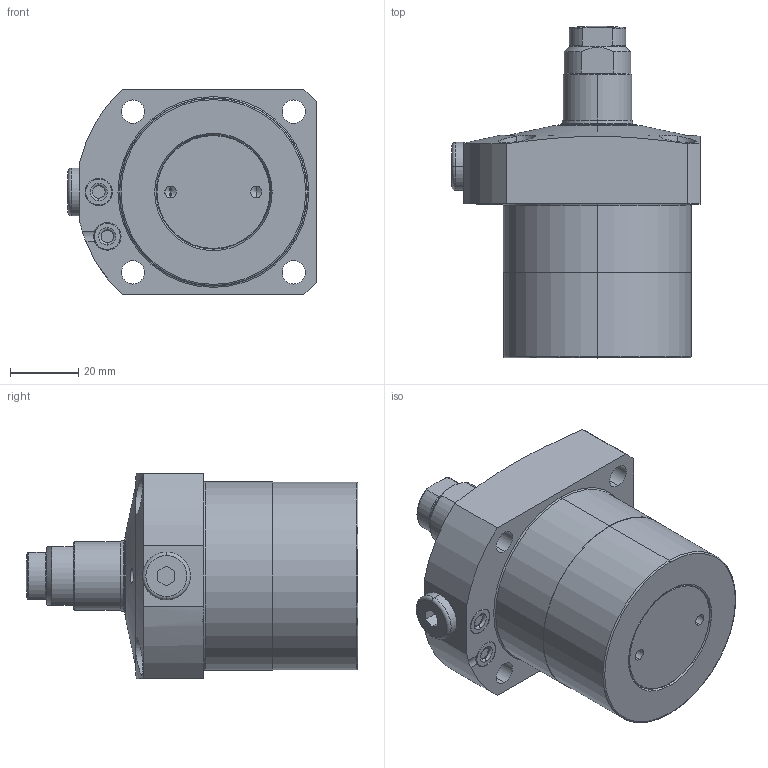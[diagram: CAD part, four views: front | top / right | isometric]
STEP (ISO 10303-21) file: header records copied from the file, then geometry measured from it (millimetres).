
FILE_DESCRIPTION(/* description */ (''),/* implementation_level */ '2;1');
FILE_NAME(/* name */ 'KFSS55.stp',/* time_stamp */ '2026-02-06T09:40:26+08:00',/* author */ (''),/* organization */ (''),/* preprocessor_version */ 'ST-DEVELOPER v16.7',/* originating_system */ 'SIEMENS PLM Software NX 12.0',/* authorisation */ '');
FILE_SCHEMA (('AUTOMOTIVE_DESIGN { 1 0 10303 214 3 1 1 1 }'));
Length unit declared in the file: millimetre
Products named in the file (8): XLC-M12_o-ring2123; XLC-M12_contactbolt4755; KFSS55-04; KFSS55-01; KFSS55-02; KFSS55-05; KFSS55-03; LC0553-Cx-E_step
Assembly tree (8 placements, depth 3):
  LC0553-Cx-E_step
    KFSS55-05  x2
    KFSS55-02
    KFSS55-01
    KFSS55-03
      XLC-M12_contactbolt4755
      XLC-M12_o-ring2123
    KFSS55-04
Bounding box: 72.5 x 97 x 60 mm (x, y, z)
Volume: 186527.8 mm3; surface area: 28001 mm2
Topology: 7 solids, 7 shells, 236 faces, 529 edges, 319 vertices
Faces by surface type: cylinder 81, torus 60, plane 52, cone 41, sphere 2
Entity records: 6846 total; most frequent: CARTESIAN_POINT 1428, DIRECTION 1216, ORIENTED_EDGE 994, AXIS2_PLACEMENT_3D 529, EDGE_CURVE 497, VERTEX_POINT 305, CIRCLE 296, EDGE_LOOP 256
